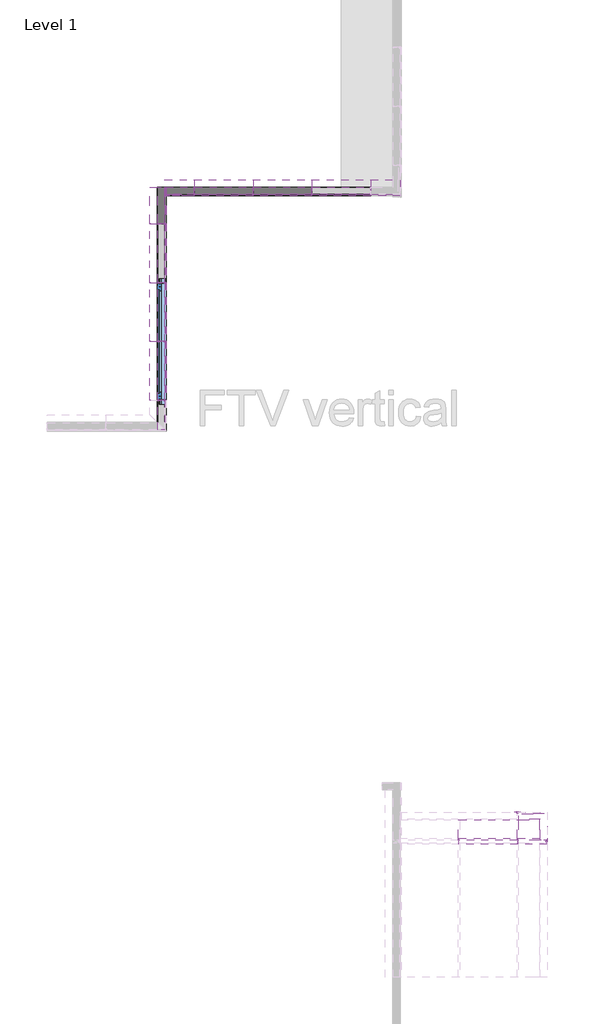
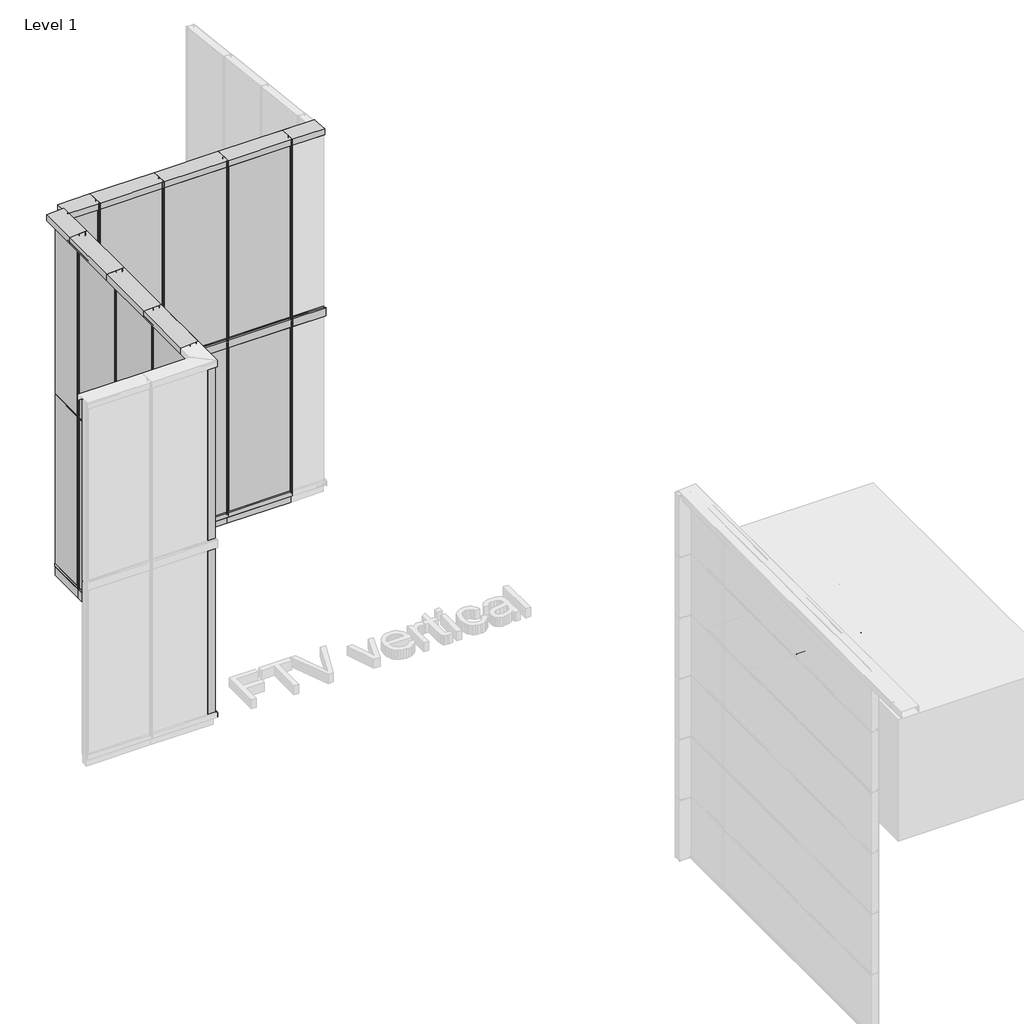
# One storey, part 3 of 16: 33 members, 24 plates, 1 window.
"""IFC4 building model written with IfcOpenShell, lengths in millimetres."""

from ifc_helpers import new_model, si_unit, origin, place, context, project, spatial, transform, mapped, element, save
from components import rectangular_mullion_43938598, rectangular_mullion_ee75781d, rectangular_mullion_bb89daf4, rectangular_mullion_3d825509, rectangular_mullion_a47ee03b, rectangular_mullion_1d9e89ed, rectangular_mullion_f78c5b19, rectangular_mullion_6127d420, rectangular_mullion_2001938f, rectangular_mullion_25a7a2da, rectangular_mullion_df936c78, rectangular_mullion_8045d9e8, rectangular_mullion_b5ec325a, rectangular_mullion_c9cecb53, rectangular_mullion_a0e06837, rectangular_mullion_5a0b59be, rectangular_mullion_1c96e24a, plate_120_ral9006_ral9002_3762bd6a, plate_120_ral9006_ral9002_0dee8bbd, plate_120_ral9006_ral9002_27679325, plate_120_ral9006_ral9002_66214006, plate_120_ral9006_ral9002_82c58e75, plate_120_ral9006_ral9002_37b8b317, plate_120_ral9006_ral9002_0a61fb57, plate_120_ral9006_ral9002_f31704ba, plate_120_ral9006_ral9002_b1579517, plate_120_ral9006_ral9002_90d9581f, plate_120_ral9006_ral9002_86764c58, plate_120_ral9006_ral9002_b2f680cc, plate_120_ral9006_ral9002_7ed2c163, tr_empty_empty_7661b975, window_36470e52

model = new_model("IFC4")

# Units and contexts
model_context = context("Model", 3, world=origin())
ifc_project = project(units=[si_unit("LENGTHUNIT", "METRE", prefix="MILLI")], contexts=[model_context])

# Site, building, storey
site = spatial("IfcSite", under=ifc_project)
building = spatial("IfcBuilding", under=site)
storey = spatial("IfcBuildingStorey", under=building, Name="Level 1", Elevation=0.0)

# Members
placement = place(None, origin())
rectangular_mullion_shape = rectangular_mullion_43938598(model_context)
element("IfcMember", 1, ObjectType="Rectangular Mullion : TE-V-01_02_Joint flashing", at=placement, inside=storey, context=model_context, shape_type="MappedRepresentation", body=[
    mapped(rectangular_mullion_shape, transform((-1494.115506, 3969.6069121, 3000.0), x_axis=(0.0, 0.0, 1.0), y_axis=(0.0, 1.0, 0.0), z_axis=(-1.0, 0.0, 0.0))),
])
element("IfcMember", 2, ObjectType="Rectangular Mullion : TE-V-01_02_Joint flashing", at=placement, inside=storey, context=model_context, shape_type="MappedRepresentation", body=[
    mapped(rectangular_mullion_shape, transform((-2494.115506, 3969.6069121, 3000.0), x_axis=(0.0, 0.0, 1.0), y_axis=(0.0, 1.0, 0.0), z_axis=(-1.0, 0.0, 0.0))),
])
element("IfcMember", 3, ObjectType="Rectangular Mullion : TE-V-01_02_Joint flashing", at=placement, inside=storey, context=model_context, shape_type="MappedRepresentation", body=[
    mapped(rectangular_mullion_shape, transform((-3494.115506, 3969.6069121, 3000.0), x_axis=(0.0, 0.0, 1.0), y_axis=(0.0, 1.0, 0.0), z_axis=(-1.0, 0.0, 0.0))),
])
element("IfcMember", 4, ObjectType="Rectangular Mullion : TE-V-01_02_Joint flashing", at=placement, inside=storey, context=model_context, shape_type="MappedRepresentation", body=[
    mapped(rectangular_mullion_shape, transform((-3994.1155057, 2469.6069124, 3000.0), x_axis=(0.0, 0.0, 1.0), y_axis=(-1.0, 0.0, 0.0), z_axis=(0.0, -1.0, 0.0))),
])
element("IfcMember", 5, ObjectType="Rectangular Mullion : TE-V-01_02_Joint flashing", at=placement, inside=storey, context=model_context, shape_type="MappedRepresentation", body=[
    mapped(rectangular_mullion_shape, transform((-3994.1155057, 1469.6069124, 3000.0), x_axis=(0.0, 0.0, 1.0), y_axis=(-1.0, 0.0, 0.0), z_axis=(0.0, -1.0, 0.0))),
])
element("IfcMember", 6, ObjectType="Rectangular Mullion : TE-V-01_02_Joint flashing", at=placement, inside=storey, context=model_context, shape_type="MappedRepresentation", body=[
    mapped(rectangular_mullion_shape, transform((-3994.1155057, 469.6069124, 3000.0), x_axis=(0.0, 0.0, 1.0), y_axis=(-1.0, 0.0, 0.0), z_axis=(0.0, -1.0, 0.0))),
])
rectangular_mullion_2_shape = rectangular_mullion_ee75781d(model_context)
element("IfcMember", 7, ObjectType="Rectangular Mullion : TE-V-01_02_Joint flashing", at=placement, inside=storey, context=model_context, shape_type="MappedRepresentation", body=[
    mapped(rectangular_mullion_2_shape, transform((-3911.5670336, 3969.6069121, 3000.0), x_axis=(0.0, 0.0, 1.0), y_axis=(0.0, 1.0, 0.0), z_axis=(-1.0, 0.0, 0.0))),
])
rectangular_mullion_3_shape = rectangular_mullion_bb89daf4(model_context)
element("IfcMember", 8, ObjectType="Rectangular Mullion : TE-H-01_03_Joint HF102", at=placement, inside=storey, context=model_context, shape_type="MappedRepresentation", body=[
    mapped(rectangular_mullion_3_shape, transform((2505.8844943, -7030.3930879, 4150.0), x_axis=(0.0, -1.0, 0.0), y_axis=(1.0, 0.0, 0.0), z_axis=(0.0, 0.0, 1.0))),
])
element("IfcMember", 9, ObjectType="Rectangular Mullion : TE-H-01_03_Joint HF102", at=placement, inside=storey, context=model_context, shape_type="MappedRepresentation", body=[
    mapped(rectangular_mullion_3_shape, transform((2005.8844943, -6530.3930879, 4150.0), x_axis=(1.0, 0.0, 0.0), y_axis=(0.0, 1.0, 0.0), z_axis=(0.0, 0.0, 1.0))),
])
rectangular_mullion_4_shape = rectangular_mullion_3d825509(model_context)
element("IfcMember", 10, ObjectType="Rectangular Mullion : TE-H-01_03_Joint HF102", at=placement, inside=storey, context=model_context, shape_type="MappedRepresentation", body=[
    mapped(rectangular_mullion_4_shape, transform((2505.8844943, -7030.3930879, 3650.0), x_axis=(0.0, -1.0, 0.0), y_axis=(0.0, 0.0, -1.0), z_axis=(1.0, 0.0, 0.0))),
])
rectangular_mullion_5_shape = rectangular_mullion_a47ee03b(model_context)
element("IfcMember", 11, ObjectType="Rectangular Mullion : TE-H-01_03_Joint HF102", at=placement, inside=storey, context=model_context, shape_type="MappedRepresentation", body=[
    mapped(rectangular_mullion_5_shape, transform((2005.8844943, -7030.3930879, 3650.0), x_axis=(0.0, -1.0, 0.0), y_axis=(0.0, 0.0, -1.0), z_axis=(1.0, 0.0, 0.0))),
])
rectangular_mullion_6_shape = rectangular_mullion_1d9e89ed(model_context)
element("IfcMember", 12, ObjectType="Rectangular Mullion : TE-V-01_02_Joint flashing", at=placement, inside=storey, context=model_context, shape_type="MappedRepresentation", body=[
    mapped(rectangular_mullion_6_shape, transform((-3994.1155057, 3469.6069124, 3000.0), x_axis=(0.0, 0.0, 1.0), y_axis=(-1.0, 0.0, 0.0), z_axis=(0.0, -1.0, 0.0))),
])
rectangular_mullion_7_shape = rectangular_mullion_f78c5b19(model_context)
element("IfcMember", 13, ObjectType="Rectangular Mullion : TE-V-02_01_Base detail i", at=placement, inside=storey, context=model_context, shape_type="MappedRepresentation", body=[
    mapped(rectangular_mullion_7_shape, transform((-494.115506, 3969.6069121, 0.0), x_axis=(0.0, 0.0, -1.0), y_axis=(0.0, 1.0, 0.0), z_axis=(1.0, 0.0, 0.0))),
])
element("IfcMember", 14, ObjectType="Rectangular Mullion : TE-V-02_01_Base detail i", at=placement, inside=storey, context=model_context, shape_type="MappedRepresentation", body=[
    mapped(rectangular_mullion_7_shape, transform((-1494.115506, 3969.6069121, 0.0), x_axis=(0.0, 0.0, -1.0), y_axis=(0.0, 1.0, 0.0), z_axis=(1.0, 0.0, 0.0))),
])
element("IfcMember", 15, ObjectType="Rectangular Mullion : TE-V-02_01_Base detail i", at=placement, inside=storey, context=model_context, shape_type="MappedRepresentation", body=[
    mapped(rectangular_mullion_7_shape, transform((-2494.115506, 3969.6069121, 0.0), x_axis=(0.0, 0.0, -1.0), y_axis=(0.0, 1.0, 0.0), z_axis=(1.0, 0.0, 0.0))),
])
element("IfcMember", 16, ObjectType="Rectangular Mullion : TE-V-02_01_Base detail i", at=placement, inside=storey, context=model_context, shape_type="MappedRepresentation", body=[
    mapped(rectangular_mullion_7_shape, transform((-3994.1155057, 3469.6069124, 0.0), x_axis=(0.0, 0.0, -1.0), y_axis=(-1.0, 0.0, 0.0), z_axis=(0.0, 1.0, 0.0))),
])
element("IfcMember", 17, ObjectType="Rectangular Mullion : TE-V-02_01_Base detail i", at=placement, inside=storey, context=model_context, shape_type="MappedRepresentation", body=[
    mapped(rectangular_mullion_7_shape, transform((-3994.1155057, 2469.6069124, 0.0), x_axis=(0.0, 0.0, -1.0), y_axis=(-1.0, 0.0, 0.0), z_axis=(0.0, 1.0, 0.0))),
])
element("IfcMember", 18, ObjectType="Rectangular Mullion : TE-V-02_01_Base detail i", at=placement, inside=storey, context=model_context, shape_type="MappedRepresentation", body=[
    mapped(rectangular_mullion_7_shape, transform((-3994.1155057, 1469.6069124, 0.0), x_axis=(0.0, 0.0, -1.0), y_axis=(-1.0, 0.0, 0.0), z_axis=(0.0, 1.0, 0.0))),
])
rectangular_mullion_8_shape = rectangular_mullion_6127d420(model_context)
element("IfcMember", 19, ObjectType="Rectangular Mullion : TE-V-02_01_Base detail i", at=placement, inside=storey, context=model_context, shape_type="MappedRepresentation", body=[
    mapped(rectangular_mullion_8_shape, transform((-3494.115506, 3969.6069121, 0.0), x_axis=(0.0, 0.0, -1.0), y_axis=(0.0, 1.0, 0.0), z_axis=(1.0, 0.0, 0.0))),
])
rectangular_mullion_9_shape = rectangular_mullion_2001938f(model_context)
element("IfcMember", 20, ObjectType="Rectangular Mullion : TE-V-02_01_Base detail i", at=placement, inside=storey, context=model_context, shape_type="MappedRepresentation", body=[
    mapped(rectangular_mullion_9_shape, transform((-3994.1155057, 4089.6069121, 0.0), x_axis=(0.0, 0.0, -1.0), y_axis=(-1.0, 0.0, 0.0), z_axis=(0.0, 1.0, 0.0))),
])
rectangular_mullion_10_shape = rectangular_mullion_25a7a2da(model_context)
element("IfcMember", 21, ObjectType="Rectangular Mullion : TE-V-03_01_Top parapet", at=placement, inside=storey, context=model_context, shape_type="MappedRepresentation", body=[
    mapped(rectangular_mullion_10_shape, transform((-3994.1155057, 3969.6069121, 6000.0), x_axis=(0.0, 0.0, 1.0), y_axis=(0.0, 1.0, 0.0), z_axis=(-1.0, 0.0, 0.0))),
])
rectangular_mullion_11_shape = rectangular_mullion_df936c78(model_context)
element("IfcMember", 22, ObjectType="Rectangular Mullion : TE-V-03_01_Top parapet", at=placement, inside=storey, context=model_context, shape_type="MappedRepresentation", body=[
    mapped(rectangular_mullion_11_shape, transform((-494.115506, 3969.6069121, 6000.0), x_axis=(0.0, 0.0, 1.0), y_axis=(0.0, 1.0, 0.0), z_axis=(-1.0, 0.0, 0.0))),
])
rectangular_mullion_12_shape = rectangular_mullion_8045d9e8(model_context)
element("IfcMember", 23, ObjectType="Rectangular Mullion : TE-V-03_01_Top parapet", at=placement, inside=storey, context=model_context, shape_type="MappedRepresentation", body=[
    mapped(rectangular_mullion_12_shape, transform((-1494.115506, 3969.6069121, 6000.0), x_axis=(0.0, 0.0, 1.0), y_axis=(0.0, 1.0, 0.0), z_axis=(-1.0, 0.0, 0.0))),
])
element("IfcMember", 24, ObjectType="Rectangular Mullion : TE-V-03_01_Top parapet", at=placement, inside=storey, context=model_context, shape_type="MappedRepresentation", body=[
    mapped(rectangular_mullion_12_shape, transform((-2494.115506, 3969.6069121, 6000.0), x_axis=(0.0, 0.0, 1.0), y_axis=(0.0, 1.0, 0.0), z_axis=(-1.0, 0.0, 0.0))),
])
element("IfcMember", 25, ObjectType="Rectangular Mullion : TE-V-03_01_Top parapet", at=placement, inside=storey, context=model_context, shape_type="MappedRepresentation", body=[
    mapped(rectangular_mullion_12_shape, transform((-3494.115506, 3969.6069121, 6000.0), x_axis=(0.0, 0.0, 1.0), y_axis=(0.0, 1.0, 0.0), z_axis=(-1.0, 0.0, 0.0))),
])
element("IfcMember", 26, ObjectType="Rectangular Mullion : TE-V-03_01_Top parapet", at=placement, inside=storey, context=model_context, shape_type="MappedRepresentation", body=[
    mapped(rectangular_mullion_12_shape, transform((-3994.1155057, 2469.6069124, 6000.0), x_axis=(0.0, 0.0, 1.0), y_axis=(-1.0, 0.0, 0.0), z_axis=(0.0, -1.0, 0.0))),
])
element("IfcMember", 27, ObjectType="Rectangular Mullion : TE-V-03_01_Top parapet", at=placement, inside=storey, context=model_context, shape_type="MappedRepresentation", body=[
    mapped(rectangular_mullion_12_shape, transform((-3994.1155057, 1469.6069124, 6000.0), x_axis=(0.0, 0.0, 1.0), y_axis=(-1.0, 0.0, 0.0), z_axis=(0.0, -1.0, 0.0))),
])
element("IfcMember", 28, ObjectType="Rectangular Mullion : TE-V-03_01_Top parapet", at=placement, inside=storey, context=model_context, shape_type="MappedRepresentation", body=[
    mapped(rectangular_mullion_12_shape, transform((-3994.1155057, 469.6069124, 6000.0), x_axis=(0.0, 0.0, 1.0), y_axis=(-1.0, 0.0, 0.0), z_axis=(0.0, -1.0, 0.0))),
])
rectangular_mullion_13_shape = rectangular_mullion_b5ec325a(model_context)
element("IfcMember", 29, ObjectType="Rectangular Mullion : TE-V-03_01_Top parapet", at=placement, inside=storey, context=model_context, shape_type="MappedRepresentation", body=[
    mapped(rectangular_mullion_13_shape, transform((-3994.1155057, 3469.6069124, 6000.0), x_axis=(0.0, 0.0, 1.0), y_axis=(-1.0, 0.0, 0.0), z_axis=(0.0, -1.0, 0.0))),
])
rectangular_mullion_14_shape = rectangular_mullion_c9cecb53(model_context)
element("IfcMember", 30, ObjectType="Rectangular Mullion : TE-V-05_01_Internal corner i L", at=placement, inside=storey, context=model_context, shape_type="MappedRepresentation", body=[
    mapped(rectangular_mullion_14_shape, transform((-3994.1155057, 3969.6069121, 206.6383068), x_axis=(-1.0, 0.0, 0.0), y_axis=(0.0, 1.0, 0.0), z_axis=(0.0, 0.0, -1.0))),
])
rectangular_mullion_15_shape = rectangular_mullion_a0e06837(model_context)
element("IfcMember", 31, ObjectType="Rectangular Mullion : TE-V-05_01_Internal corner i L", at=placement, inside=storey, context=model_context, shape_type="MappedRepresentation", body=[
    mapped(rectangular_mullion_15_shape, transform((-3994.1155057, 3969.6069121, 3000.0), x_axis=(-1.0, 0.0, 0.0), y_axis=(0.0, 1.0, 0.0), z_axis=(0.0, 0.0, -1.0))),
])
rectangular_mullion_16_shape = rectangular_mullion_5a0b59be(model_context)
element("IfcMember", 32, ObjectType="Rectangular Mullion : TE-V-01_02_Joint flashing", at=placement, inside=storey, context=model_context, shape_type="MappedRepresentation", body=[
    mapped(rectangular_mullion_16_shape, transform((-494.115506, 3969.6069121, 3000.0), x_axis=(0.0, 0.0, 1.0), y_axis=(0.0, 1.0, 0.0), z_axis=(-1.0, 0.0, 0.0))),
])
rectangular_mullion_17_shape = rectangular_mullion_1c96e24a(model_context)
element("IfcMember", 33, ObjectType="Rectangular Mullion : TE-V-02_01_Base detail i", at=placement, inside=storey, context=model_context, shape_type="MappedRepresentation", body=[
    mapped(rectangular_mullion_17_shape, transform((-3994.1155057, 469.6069124, 0.0), x_axis=(0.0, 0.0, -1.0), y_axis=(-1.0, 0.0, 0.0), z_axis=(0.0, 1.0, 0.0))),
])

# Plates
plate_120_ral9006_ral9002_shape = plate_120_ral9006_ral9002_3762bd6a(model_context)
element("IfcPlate", 34, ObjectType="TR_C_H_FTV_Panel : 120/RAL9006/RAL9002", at=placement, inside=storey, context=model_context, shape_type="MappedRepresentation", body=[
    mapped(plate_120_ral9006_ral9002_shape, transform((1005.8844943, -6770.3930879, 3650.0), x_axis=(0.0, -1.0, 0.0), y_axis=(0.0, 0.0, -1.0), z_axis=(1.0, 0.0, 0.0))),
])
plate_120_ral9006_ral9002_2_shape = plate_120_ral9006_ral9002_0dee8bbd(model_context)
element("IfcPlate", 35, ObjectType="TR_C_H_FTV_Panel_cut_GROOVE : 120/RAL9006/RAL9002", at=placement, inside=storey, context=model_context, shape_type="MappedRepresentation", body=[
    mapped(plate_120_ral9006_ral9002_2_shape, transform((2005.8844943, -6770.3930879, 3650.0), x_axis=(0.0, -1.0, 0.0), y_axis=(0.0, 0.0, -1.0), z_axis=(1.0, 0.0, 0.0))),
])
plate_120_ral9006_ral9002_3_shape = plate_120_ral9006_ral9002_27679325(model_context)
element("IfcPlate", 36, ObjectType="TR_C_V_FTV_Panel : 120/RAL9006/RAL9002", at=placement, inside=storey, context=model_context, shape_type="MappedRepresentation", body=[
    mapped(plate_120_ral9006_ral9002_3_shape, transform((-994.115506, 3969.6069121, 150.0), x_axis=(-1.0, 0.0, 0.0), y_axis=(0.0, -1.0, 0.0), z_axis=(0.0, 0.0, 1.0))),
])
element("IfcPlate", 37, ObjectType="TR_C_V_FTV_Panel : 120/RAL9006/RAL9002", at=placement, inside=storey, context=model_context, shape_type="MappedRepresentation", body=[
    mapped(plate_120_ral9006_ral9002_3_shape, transform((-1994.115506, 3969.6069121, 150.0), x_axis=(-1.0, 0.0, 0.0), y_axis=(0.0, -1.0, 0.0), z_axis=(0.0, 0.0, 1.0))),
])
element("IfcPlate", 38, ObjectType="TR_C_V_FTV_Panel : 120/RAL9006/RAL9002", at=placement, inside=storey, context=model_context, shape_type="MappedRepresentation", body=[
    mapped(plate_120_ral9006_ral9002_3_shape, transform((-2994.115506, 3969.6069121, 150.0), x_axis=(-1.0, 0.0, 0.0), y_axis=(0.0, -1.0, 0.0), z_axis=(0.0, 0.0, 1.0))),
])
element("IfcPlate", 39, ObjectType="TR_C_V_FTV_Panel : 120/RAL9006/RAL9002", at=placement, inside=storey, context=model_context, shape_type="MappedRepresentation", body=[
    mapped(plate_120_ral9006_ral9002_3_shape, transform((-3994.1155057, 2969.6069124, 150.0), x_axis=(0.0, -1.0, 0.0), y_axis=(1.0, 0.0, 0.0), z_axis=(0.0, 0.0, 1.0))),
])
plate_120_ral9006_ral9002_4_shape = plate_120_ral9006_ral9002_66214006(model_context)
element("IfcPlate", 40, ObjectType="TR_C_V_FTV_Panel : 120/RAL9006/RAL9002", at=placement, inside=storey, context=model_context, shape_type="MappedRepresentation", body=[
    mapped(plate_120_ral9006_ral9002_4_shape, transform((-3994.1155057, 1969.6069124, 150.0), x_axis=(0.0, -1.0, 0.0), y_axis=(1.0, 0.0, 0.0), z_axis=(0.0, 0.0, 1.0))),
])
element("IfcPlate", 41, ObjectType="TR_C_V_FTV_Panel : 120/RAL9006/RAL9002", at=placement, inside=storey, context=model_context, shape_type="MappedRepresentation", body=[
    mapped(plate_120_ral9006_ral9002_4_shape, transform((-3994.1155057, 969.6069124, 150.0), x_axis=(0.0, -1.0, 0.0), y_axis=(1.0, 0.0, 0.0), z_axis=(0.0, 0.0, 1.0))),
])
plate_120_ral9006_ral9002_5_shape = plate_120_ral9006_ral9002_82c58e75(model_context)
element("IfcPlate", 42, ObjectType="TR_C_V_FTV_Panel : 120/RAL9006/RAL9002", at=placement, inside=storey, context=model_context, shape_type="MappedRepresentation", body=[
    mapped(plate_120_ral9006_ral9002_5_shape, transform((-994.115506, 3969.6069121, 3000.0), x_axis=(-1.0, 0.0, 0.0), y_axis=(0.0, -1.0, 0.0), z_axis=(0.0, 0.0, 1.0))),
])
element("IfcPlate", 43, ObjectType="TR_C_V_FTV_Panel : 120/RAL9006/RAL9002", at=placement, inside=storey, context=model_context, shape_type="MappedRepresentation", body=[
    mapped(plate_120_ral9006_ral9002_5_shape, transform((-1994.115506, 3969.6069121, 3000.0), x_axis=(-1.0, 0.0, 0.0), y_axis=(0.0, -1.0, 0.0), z_axis=(0.0, 0.0, 1.0))),
])
element("IfcPlate", 44, ObjectType="TR_C_V_FTV_Panel : 120/RAL9006/RAL9002", at=placement, inside=storey, context=model_context, shape_type="MappedRepresentation", body=[
    mapped(plate_120_ral9006_ral9002_5_shape, transform((-2994.115506, 3969.6069121, 3000.0), x_axis=(-1.0, 0.0, 0.0), y_axis=(0.0, -1.0, 0.0), z_axis=(0.0, 0.0, 1.0))),
])
element("IfcPlate", 45, ObjectType="TR_C_V_FTV_Panel : 120/RAL9006/RAL9002", at=placement, inside=storey, context=model_context, shape_type="MappedRepresentation", body=[
    mapped(plate_120_ral9006_ral9002_5_shape, transform((-3994.1155057, 2969.6069124, 3000.0), x_axis=(0.0, -1.0, 0.0), y_axis=(1.0, 0.0, 0.0), z_axis=(0.0, 0.0, 1.0))),
])
element("IfcPlate", 46, ObjectType="TR_C_V_FTV_Panel : 120/RAL9006/RAL9002", at=placement, inside=storey, context=model_context, shape_type="MappedRepresentation", body=[
    mapped(plate_120_ral9006_ral9002_5_shape, transform((-3994.1155057, 1969.6069124, 3000.0), x_axis=(0.0, -1.0, 0.0), y_axis=(1.0, 0.0, 0.0), z_axis=(0.0, 0.0, 1.0))),
])
element("IfcPlate", 47, ObjectType="TR_C_V_FTV_Panel : 120/RAL9006/RAL9002", at=placement, inside=storey, context=model_context, shape_type="MappedRepresentation", body=[
    mapped(plate_120_ral9006_ral9002_5_shape, transform((-3994.1155057, 969.6069124, 3000.0), x_axis=(0.0, -1.0, 0.0), y_axis=(1.0, 0.0, 0.0), z_axis=(0.0, 0.0, 1.0))),
])
plate_120_ral9006_ral9002_6_shape = plate_120_ral9006_ral9002_37b8b317(model_context)
element("IfcPlate", 48, ObjectType="TR_C_V_FTV_Panel : 120/RAL9006/RAL9002", at=placement, inside=storey, context=model_context, shape_type="MappedRepresentation", body=[
    mapped(plate_120_ral9006_ral9002_6_shape, transform((-3994.1155057, 1969.6069124, 2100.0), x_axis=(0.0, -1.0, 0.0), y_axis=(1.0, 0.0, 0.0), z_axis=(0.0, 0.0, 1.0))),
])
element("IfcPlate", 49, ObjectType="TR_C_V_FTV_Panel : 120/RAL9006/RAL9002", at=placement, inside=storey, context=model_context, shape_type="MappedRepresentation", body=[
    mapped(plate_120_ral9006_ral9002_6_shape, transform((-3994.1155057, 969.6069124, 2100.0), x_axis=(0.0, -1.0, 0.0), y_axis=(1.0, 0.0, 0.0), z_axis=(0.0, 0.0, 1.0))),
])
plate_120_ral9006_ral9002_7_shape = plate_120_ral9006_ral9002_0a61fb57(model_context)
element("IfcPlate", 50, ObjectType="TR_C_V_FTV_Panel_cut_GROOVE : 120/RAL9006/RAL9002", at=placement, inside=storey, context=model_context, shape_type="MappedRepresentation", body=[
    mapped(plate_120_ral9006_ral9002_7_shape, transform((-3994.1155057, 219.6069123, 150.0), x_axis=(0.0, -1.0, 0.0), y_axis=(1.0, 0.0, 0.0), z_axis=(0.0, 0.0, 1.0))),
])
plate_120_ral9006_ral9002_8_shape = plate_120_ral9006_ral9002_f31704ba(model_context)
element("IfcPlate", 51, ObjectType="TR_C_V_FTV_Panel_cut_GROOVE : 120/RAL9006/RAL9002", at=placement, inside=storey, context=model_context, shape_type="MappedRepresentation", body=[
    mapped(plate_120_ral9006_ral9002_8_shape, transform((-3734.5155058, 3969.6069121, 150.0), x_axis=(-1.0, 0.0, 0.0), y_axis=(0.0, -1.0, 0.0), z_axis=(0.0, 0.0, 1.0))),
])
plate_120_ral9006_ral9002_9_shape = plate_120_ral9006_ral9002_b1579517(model_context)
element("IfcPlate", 52, ObjectType="TR_C_V_FTV_Panel_cut_GROOVE : 120/RAL9006/RAL9002", at=placement, inside=storey, context=model_context, shape_type="MappedRepresentation", body=[
    mapped(plate_120_ral9006_ral9002_9_shape, transform((-3734.5155058, 3969.6069121, 3000.0), x_axis=(-1.0, 0.0, 0.0), y_axis=(0.0, -1.0, 0.0), z_axis=(0.0, 0.0, 1.0))),
])
plate_120_ral9006_ral9002_10_shape = plate_120_ral9006_ral9002_90d9581f(model_context)
element("IfcPlate", 53, ObjectType="TR_C_V_FTV_Panel_cut_GROOVE : 120/RAL9006/RAL9002", at=placement, inside=storey, context=model_context, shape_type="MappedRepresentation", body=[
    mapped(plate_120_ral9006_ral9002_10_shape, transform((-3994.1155057, 219.6069123, 3000.0), x_axis=(0.0, -1.0, 0.0), y_axis=(1.0, 0.0, 0.0), z_axis=(0.0, 0.0, 1.0))),
])
plate_120_ral9006_ral9002_11_shape = plate_120_ral9006_ral9002_86764c58(model_context)
element("IfcPlate", 54, ObjectType="TR_C_V_FTV_Panel_cut_TONGUE : 120/RAL9006/RAL9002", at=placement, inside=storey, context=model_context, shape_type="MappedRepresentation", body=[
    mapped(plate_120_ral9006_ral9002_11_shape, transform((-3994.1155057, 3779.6069123, 150.0), x_axis=(0.0, -1.0, 0.0), y_axis=(1.0, 0.0, 0.0), z_axis=(0.0, 0.0, 1.0))),
])
plate_120_ral9006_ral9002_12_shape = plate_120_ral9006_ral9002_b2f680cc(model_context)
element("IfcPlate", 55, ObjectType="TR_C_V_FTV_Panel_cut_TONGUE : 120/RAL9006/RAL9002", at=placement, inside=storey, context=model_context, shape_type="MappedRepresentation", body=[
    mapped(plate_120_ral9006_ral9002_12_shape, transform((-3994.1155057, 3779.6069123, 3000.0), x_axis=(0.0, -1.0, 0.0), y_axis=(1.0, 0.0, 0.0), z_axis=(0.0, 0.0, 1.0))),
])
plate_120_ral9006_ral9002_13_shape = plate_120_ral9006_ral9002_7ed2c163(model_context)
element("IfcPlate", 56, ObjectType="TR_C_H_FTV_Corner_Tr_B_cut_TONGUE : 120/RAL9006/RAL9002", at=placement, inside=storey, context=model_context, shape_type="MappedRepresentation", body=[
    mapped(plate_120_ral9006_ral9002_13_shape, transform((2505.8844943, -6770.3930879, 3650.0), x_axis=(0.0, -1.0, 0.0), y_axis=(1.0, 0.0, 0.0), z_axis=(0.0, 0.0, 1.0))),
])
tr_empty_empty_shape = tr_empty_empty_7661b975(model_context)
element("IfcPlate", 57, ObjectType="TR_EMPTY : EMPTY", at=placement, inside=storey, context=model_context, shape_type="MappedRepresentation", body=[
    mapped(tr_empty_empty_shape, transform((2265.8844943, -6530.3930879, 3650.0), x_axis=(1.0, 0.0, 0.0), y_axis=(0.0, 1.0, 0.0), z_axis=(0.0, 0.0, 1.0))),
])

# Window
window_shape = window_36470e52(model_context)
element("IfcWindow", 58, ObjectType="TE-V-06_01_Window Module i : Window", at=placement, inside=storey, context=model_context, shape_type="MappedRepresentation", body=[
    mapped(window_shape, transform((-3994.1155057, 1469.6069124, 900.0), x_axis=(0.0, -1.0, 0.0), y_axis=(1.0, 0.0, 0.0), z_axis=(0.0, 0.0, 1.0))),
])

save(model, "model.ifc")
